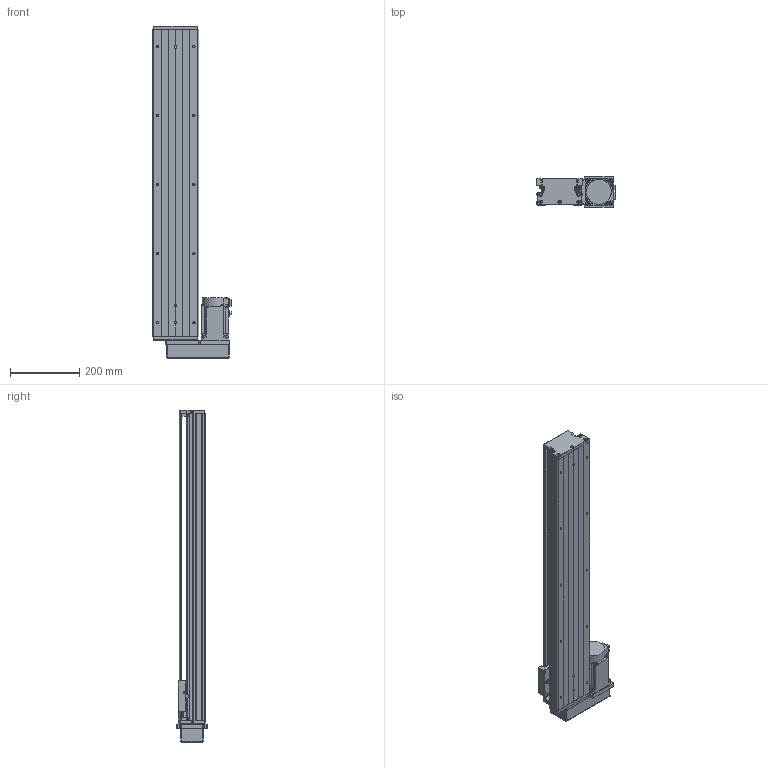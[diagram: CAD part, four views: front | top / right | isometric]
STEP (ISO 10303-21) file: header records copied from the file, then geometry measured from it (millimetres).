
FILE_DESCRIPTION (( 'STEP AP203' ), '1' );
FILE_NAME ('KTH130-750-BR-M75-C4.step', '2023-06-30T04:56:38', ( '微软用户' ), ( '微软中国' ), 'SwSTEP 2.0', 'SolidWorks 2020', '' );
FILE_SCHEMA (( 'CONFIG_CONTROL_DESIGN' ));
Length unit declared in the file: millimetre
Products named in the file (18): KTH130-750-BR-M75-C4; GB1155-6X6; GBT77-2000 M3×3; GBT70.1 M5℅16; す晦芛蹟隊 M3℅5; GBT 70.2-M3¡Á5_M3¡Á6; GBT 70.3-M3℅8; GTH14-001_750; CTHA60-017; hg-kn73j_-s100; KTH130-002_KTH130-002; EE_SX911P_R; CTHA86-015-3_CTHA86-015-4; KTH130-004; CTHA60-016; CTHA86-035; KTH130-005; GBT 70.1-M3℅5
Assembly tree (49 placements, depth 2):
  KTH130-750-BR-M75-C4
    GTH14-001_750
    KTH130-002_KTH130-002
    KTH130-004
    KTH130-005
    GB1155-6X6  x2
    GBT70.1 M5℅16  x10
    GBT 70.2-M3¡Á5_M3¡Á6  x4
    CTHA60-017  x3
    EE_SX911P_R  x3
    CTHA60-016  x2
    GBT 70.1-M3℅5  x6
    GBT77-2000 M3×3  x6
    す晦芛蹟隊 M3℅5  x2
    GBT 70.3-M3℅8  x4
    hg-kn73j_-s100
    CTHA86-015-3_CTHA86-015-4
    CTHA86-035
Bounding box: 230.3 x 87 x 962 mm (x, y, z)
Volume: 6233632.4 mm3; surface area: 895809.5 mm2
Topology: 52 solids, 52 shells, 2192 faces, 5316 edges, 3327 vertices
Faces by surface type: plane 1208, cylinder 630, cone 238, torus 100, sphere 16
Entity records: 39945 total; most frequent: CARTESIAN_POINT 6722, DIRECTION 6577, ORIENTED_EDGE 6136, EDGE_CURVE 3068, AXIS2_PLACEMENT_3D 2300, LINE 1977, VECTOR 1977, VERTEX_POINT 1961
